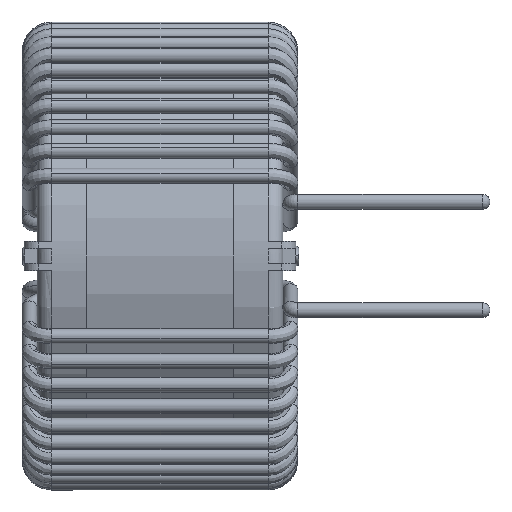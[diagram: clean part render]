
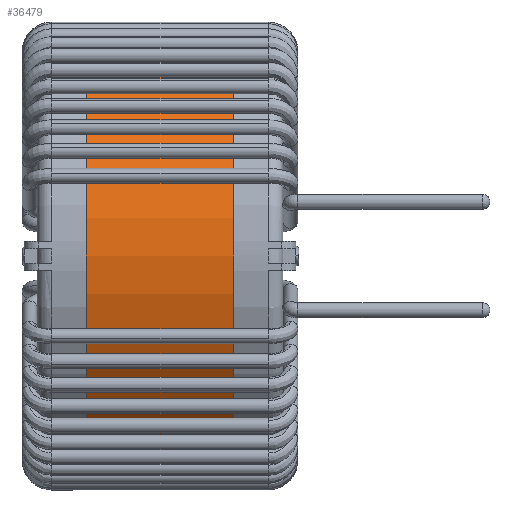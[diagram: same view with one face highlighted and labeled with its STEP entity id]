
A CAD part, left-side view. The second image highlights one B-rep face of the part: STEP entity #36479.
In plain terms, the highlighted cylindrical face has radius 15.005 mm (diameter 30.01 mm), a partial arc.
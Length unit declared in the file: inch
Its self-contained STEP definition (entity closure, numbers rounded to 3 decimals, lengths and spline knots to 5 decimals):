
#224 = FACE_OUTER_BOUND ( 'NONE', #33371, .T. ) ;
#408 = ORIENTED_EDGE ( 'NONE', *, *, #11733, .F. ) ;
#965 = DIRECTION ( 'NONE',  ( 0., -1., 0. ) ) ;
#1803 = CARTESIAN_POINT ( 'NONE',  ( 0., 0.19685, -0.59075 ) ) ;
#2789 = VERTEX_POINT ( 'NONE', #1803 ) ;
#4019 = VECTOR ( 'NONE', #13237, 39.37008 ) ;
#4266 = DIRECTION ( 'NONE',  ( 0., 0., -1. ) ) ;
#4664 = ORIENTED_EDGE ( 'NONE', *, *, #43932, .T. ) ;
#4921 = VERTEX_POINT ( 'NONE', #39191 ) ;
#5100 = AXIS2_PLACEMENT_3D ( 'NONE', #5929, #34371, #4266 ) ;
#5929 = CARTESIAN_POINT ( 'NONE',  ( 0., 0.19685, 0. ) ) ;
#6384 = ORIENTED_EDGE ( 'NONE', *, *, #47786, .F. ) ;
#7083 = VECTOR ( 'NONE', #965, 39.37008 ) ;
#7200 = DIRECTION ( 'NONE',  ( 0., 0., 1. ) ) ;
#9599 = DIRECTION ( 'NONE',  ( 0., 1., 0. ) ) ;
#11585 = CARTESIAN_POINT ( 'NONE',  ( 0., 0.19685, 0.59075 ) ) ;
#11733 = EDGE_CURVE ( 'NONE', #28825, #14710, #30310, .T. ) ;
#13237 = DIRECTION ( 'NONE',  ( 0., -1., 0. ) ) ;
#13695 = CARTESIAN_POINT ( 'NONE',  ( 0., -0.19685, 0. ) ) ;
#14710 = VERTEX_POINT ( 'NONE', #24462 ) ;
#18053 = LINE ( 'NONE', #27785, #7083 ) ;
#24462 = CARTESIAN_POINT ( 'NONE',  ( 0., -0.19685, 0.59075 ) ) ;
#26211 = CARTESIAN_POINT ( 'NONE',  ( 0., 0.19685, 0.59075 ) ) ;
#26234 = CYLINDRICAL_SURFACE ( 'NONE', #5100, 0.59075 ) ;
#26705 = AXIS2_PLACEMENT_3D ( 'NONE', #13695, #9599, #7200 ) ;
#27785 = CARTESIAN_POINT ( 'NONE',  ( 0., 0.19685, -0.59075 ) ) ;
#28825 = VERTEX_POINT ( 'NONE', #26211 ) ;
#30310 = LINE ( 'NONE', #11585, #4019 ) ;
#32047 = CIRCLE ( 'NONE', #33607, 0.59075 ) ;
#33371 = EDGE_LOOP ( 'NONE', ( #408, #6384, #45465, #4664 ) ) ;
#33607 = AXIS2_PLACEMENT_3D ( 'NONE', #43861, #39784, #44681 ) ;
#34371 = DIRECTION ( 'NONE',  ( 0., -1., 0. ) ) ;
#36479 = ADVANCED_FACE ( 'NONE', ( #224 ), #26234, .T. ) ;
#39191 = CARTESIAN_POINT ( 'NONE',  ( 0., -0.19685, -0.59075 ) ) ;
#39267 = EDGE_CURVE ( 'NONE', #2789, #4921, #18053, .T. ) ;
#39784 = DIRECTION ( 'NONE',  ( 0., 1., 0. ) ) ;
#43861 = CARTESIAN_POINT ( 'NONE',  ( 0., 0.19685, 0. ) ) ;
#43932 = EDGE_CURVE ( 'NONE', #4921, #14710, #45706, .T. ) ;
#44681 = DIRECTION ( 'NONE',  ( 0., 0., 1. ) ) ;
#45465 = ORIENTED_EDGE ( 'NONE', *, *, #39267, .T. ) ;
#45706 = CIRCLE ( 'NONE', #26705, 0.59075 ) ;
#47786 = EDGE_CURVE ( 'NONE', #2789, #28825, #32047, .T. ) ;
